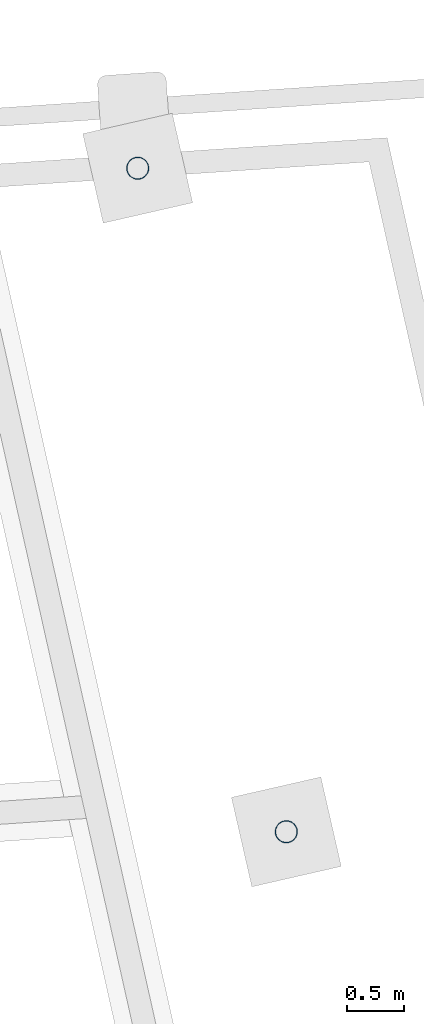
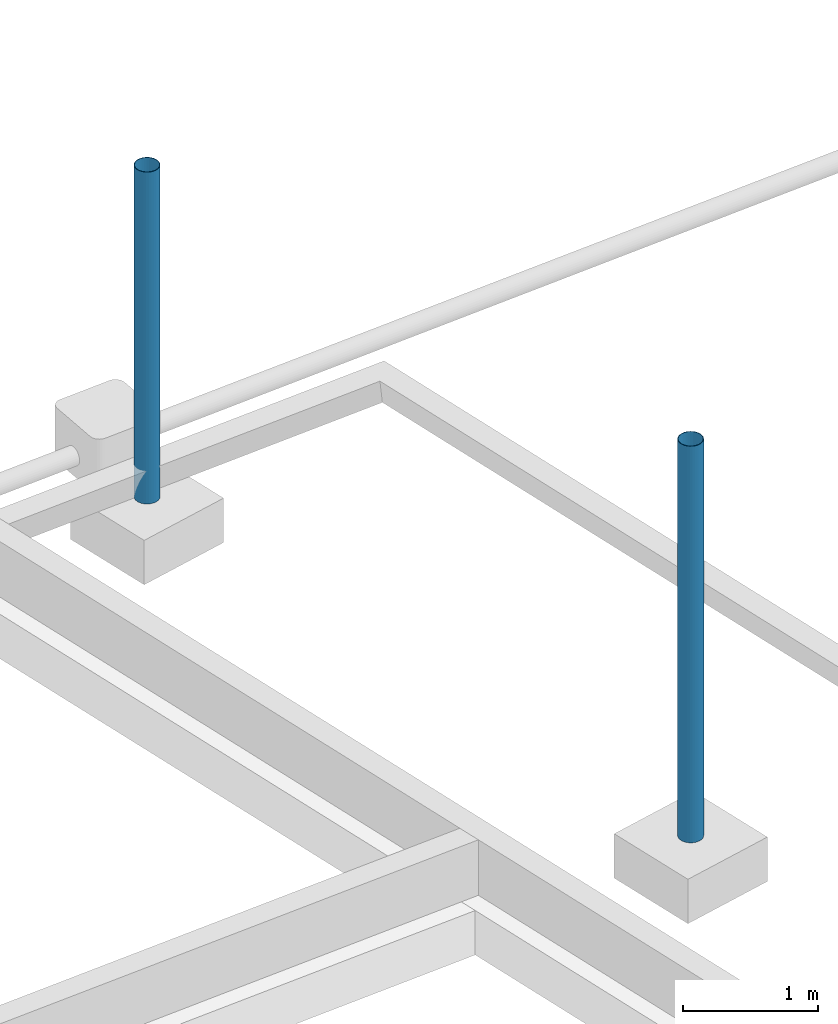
# One storey, part 5 of 17: 2 columns.
"""IFC2X3 building model written with IfcOpenShell, lengths in centimetres."""

from ifc_helpers import new_model, entity, si_unit, converted_unit, derived_unit, direction, frame, frame_2d, origin, place, context, subcontext, project, spatial, hollow_circle, extrude, source, transform, mapped, material, type_object, type_shapes, element, save


model = new_model("IFC2X3")

# Units and contexts
model_context = context("Model", 3, precision=0.001, world=origin(), true_north=direction((6.12303176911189e-17, 1.0)))
body_context = subcontext(model_context, "Body", "Model", "MODEL_VIEW")
ifc_project = project(units=[si_unit("LENGTHUNIT", "METRE", prefix="CENTI"), si_unit("AREAUNIT", "SQUARE_METRE"), si_unit("VOLUMEUNIT", "CUBIC_METRE"), converted_unit("PLANEANGLEUNIT", "DEGREE", entity("IfcRatioMeasure", 0.0174532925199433), si_unit("PLANEANGLEUNIT", "RADIAN"), dimensions=[0, 0, 0, 0, 0, 0, 0]), si_unit("MASSUNIT", "GRAM", prefix="KILO"), derived_unit("MASSDENSITYUNIT", [(si_unit("MASSUNIT", "GRAM", prefix="KILO"), 1), (si_unit("LENGTHUNIT", "METRE"), -3)]), si_unit("TIMEUNIT", "SECOND"), si_unit("FREQUENCYUNIT", "HERTZ"), si_unit("THERMODYNAMICTEMPERATUREUNIT", "DEGREE_CELSIUS"), derived_unit("THERMALTRANSMITTANCEUNIT", [(si_unit("MASSUNIT", "GRAM", prefix="KILO"), 1), (si_unit("THERMODYNAMICTEMPERATUREUNIT", "KELVIN"), -1), (si_unit("TIMEUNIT", "SECOND"), -3)]), derived_unit("VOLUMETRICFLOWRATEUNIT", [(si_unit("LENGTHUNIT", "METRE"), 3), (si_unit("TIMEUNIT", "SECOND"), -1)]), si_unit("ELECTRICCURRENTUNIT", "AMPERE"), si_unit("ELECTRICVOLTAGEUNIT", "VOLT"), si_unit("POWERUNIT", "WATT"), si_unit("FORCEUNIT", "NEWTON", prefix="KILO"), si_unit("ILLUMINANCEUNIT", "LUX"), si_unit("LUMINOUSFLUXUNIT", "LUMEN"), si_unit("LUMINOUSINTENSITYUNIT", "CANDELA"), derived_unit("USERDEFINED", [(si_unit("MASSUNIT", "GRAM", prefix="KILO"), -1), (si_unit("LENGTHUNIT", "METRE"), -2), (si_unit("TIMEUNIT", "SECOND"), 3), (si_unit("LUMINOUSFLUXUNIT", "LUMEN"), 1)]), derived_unit("LINEARVELOCITYUNIT", [(si_unit("LENGTHUNIT", "METRE"), 1), (si_unit("TIMEUNIT", "SECOND"), -1)]), si_unit("PRESSUREUNIT", "PASCAL"), derived_unit("USERDEFINED", [(si_unit("LENGTHUNIT", "METRE"), -2), (si_unit("MASSUNIT", "GRAM", prefix="KILO"), 1), (si_unit("TIMEUNIT", "SECOND"), -2)])], contexts=[model_context])

# Site, building, storey
site_placement = place(None, frame((2611.71187422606, 13650.4058644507, 0.0), z_axis=(0.0, 0.0, 1.0), x_axis=(0.0673222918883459, -0.997731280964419, 0.0)))
site = spatial("IfcSite", under=ifc_project, at=site_placement, Name="Surface", CompositionType="ELEMENT")
building_placement = place(site_placement, origin())
building = spatial("IfcBuilding", under=site, at=building_placement, CompositionType="ELEMENT")
storey_placement = place(building_placement, frame((0.0, 0.0, 86950.0)))
storey = spatial("IfcBuildingStorey", under=building, at=storey_placement, Name="-1 Soubassement", CompositionType="ELEMENT", Elevation=86950.0)

# Columns
ifc_material = material(Name="Acier structurel - S235")
column_type_1 = type_object("IfcColumnType", Name="Poteau rond 193.7x4 mm", PredefinedType="COLUMN")
shared_shape_1 = source(origin(), body_context, "Body", "SweptSolid", [
    extrude(hollow_circle(Radius=9.685, WallThickness=0.399999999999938, at=frame_2d((-7.14015928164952e-16, -4.16500599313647e-14), x_axis=(1.0, 0.0))), frame((0.0, 0.0, 86950.0)), (0.0, 0.0, 1.0), 357.471562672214),
])
type_shapes(column_type_1, [shared_shape_1])
column_1_placement = place(storey_placement, frame((2542.91859464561, 1265.76334334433, -86950.0), z_axis=(0.0, 0.0, 1.0), x_axis=(0.988328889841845, 0.152335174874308, 0.0)))
element("IfcColumn", 1, at=column_1_placement, inside=storey, type_object=column_type_1, material=ifc_material, Name="Poteau RO (EN 10219-2):Poteau rond 193.7x4 mm", ObjectType="Poteau RO (EN 10219-2):Poteau rond 193.7x4 mm", context=body_context, shape_type="MappedRepresentation", body=[
    mapped(shared_shape_1, transform((0.0, 0.0, 0.0), scale=1.0)),
])
column_type_2 = type_object("IfcColumnType", Name="Poteau rond 193.7x4 mm", PredefinedType="COLUMN")
shared_shape_2 = source(origin(), body_context, "Body", "SweptSolid", [
    extrude(hollow_circle(Radius=9.685, WallThickness=0.399999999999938, at=frame_2d((-7.14015928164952e-16, -4.16500599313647e-14), x_axis=(1.0, 0.0))), frame((0.0, 0.0, 86950.0)), (0.0, 0.0, 1.0), 299.117055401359),
])
type_shapes(column_type_2, [shared_shape_2])
column_2_placement = place(storey_placement, frame((1957.06496882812, 1175.46332737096, -86950.0), z_axis=(0.0, 0.0, 1.0), x_axis=(0.988328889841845, 0.152335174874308, 0.0)))
element("IfcColumn", 2, at=column_2_placement, inside=storey, type_object=column_type_2, material=ifc_material, Name="Poteau RO (EN 10219-2):Poteau rond 193.7x4 mm", ObjectType="Poteau RO (EN 10219-2):Poteau rond 193.7x4 mm", context=body_context, shape_type="MappedRepresentation", body=[
    mapped(shared_shape_2, transform((0.0, 0.0, 0.0), scale=1.0)),
])

save(model, "model.ifc")
